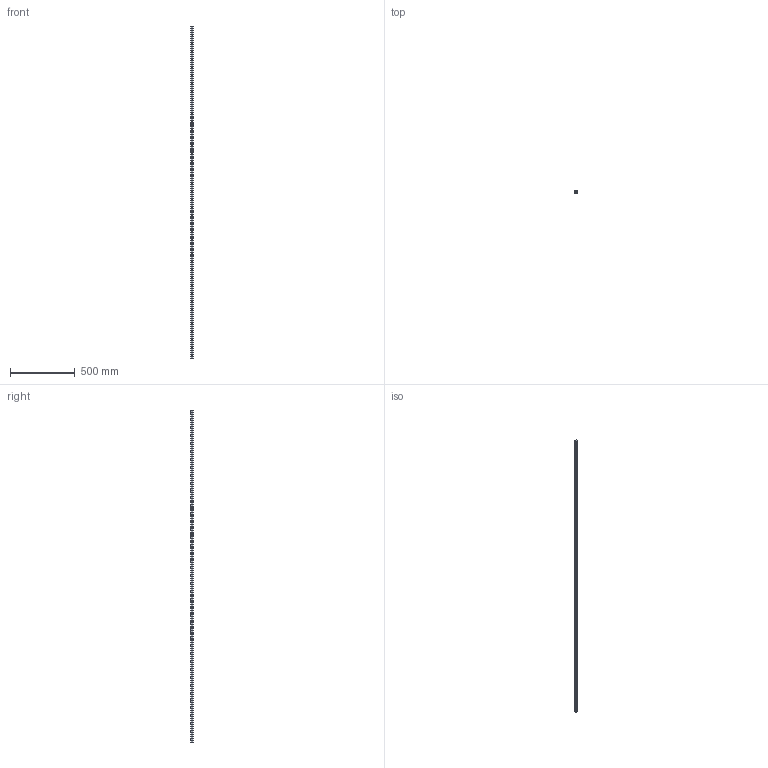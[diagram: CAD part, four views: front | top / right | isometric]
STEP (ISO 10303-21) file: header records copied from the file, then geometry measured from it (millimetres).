
FILE_DESCRIPTION (( 'STEP AP203' ), '1' );
FILE_NAME ('L1016.BL20-2560.step', '2019-06-12T11:53:28', ( '' ), ( '' ), 'SwSTEP 2.0', 'SolidWorks 2017', '' );
FILE_SCHEMA (( 'CONFIG_CONTROL_DESIGN' ));
Length unit declared in the file: millimetre
Products named in the file (1): L1016.BL20-2560
Bounding box: 20 x 16.3 x 2560 mm (x, y, z)
Volume: 711574.3 mm3; surface area: 206005.7 mm2
Topology: 1 solids, 1 shells, 241 faces, 588 edges, 392 vertices
Faces by surface type: cylinder 176, plane 65
Entity records: 7523 total; most frequent: DIRECTION 1424, CARTESIAN_POINT 1222, ORIENTED_EDGE 1176, AXIS2_PLACEMENT_3D 594, EDGE_CURVE 588, VERTEX_POINT 392, EDGE_LOOP 370, CIRCLE 352
